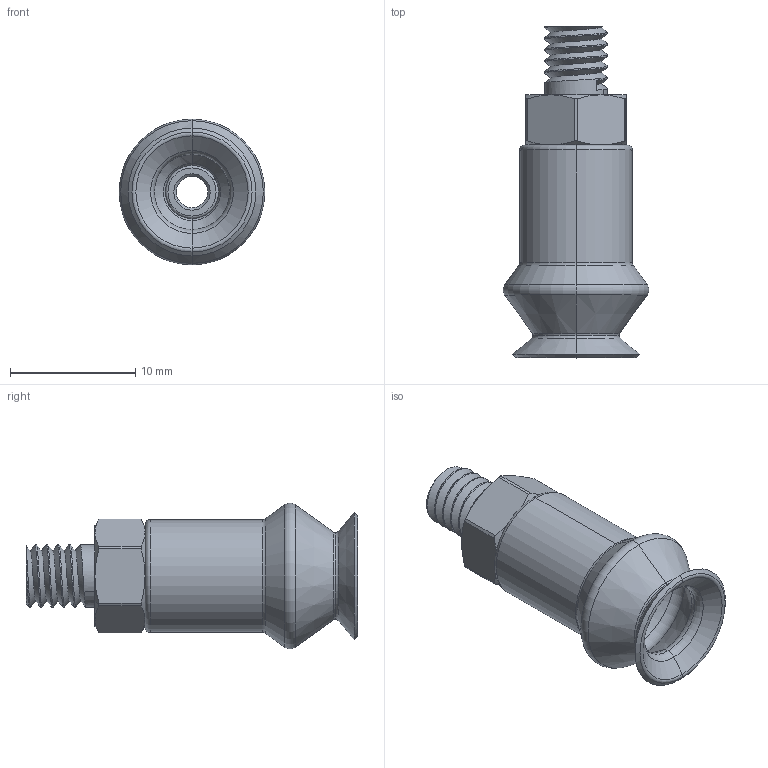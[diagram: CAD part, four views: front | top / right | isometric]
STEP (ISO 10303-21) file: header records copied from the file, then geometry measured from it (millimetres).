
FILE_DESCRIPTION (( 'STEP AP214' ), '1' );
FILE_NAME ('91 11-- M5 .step', '2024-12-12T16:04:59', ( '' ), ( '' ), 'SwSTEP 2.0', 'SolidWorks 2021', '' );
FILE_SCHEMA (( 'AUTOMOTIVE_DESIGN' ));
Length unit declared in the file: millimetre
Products named in the file (1): 91 11-- M5  
Bounding box: 11.65 x 26.5 x 11.65 mm (x, y, z)
Volume: 959.7 mm3; surface area: 1585.6 mm2
Topology: 2 solids, 2 shells, 105 faces, 235 edges, 137 vertices
Faces by surface type: cone 36, cylinder 27, torus 26, plane 14, bspline 2
Entity records: 5025 total; most frequent: CARTESIAN_POINT 2681, DIRECTION 513, ORIENTED_EDGE 470, EDGE_CURVE 235, AXIS2_PLACEMENT_3D 228, VERTEX_POINT 137, CIRCLE 124, EDGE_LOOP 112
